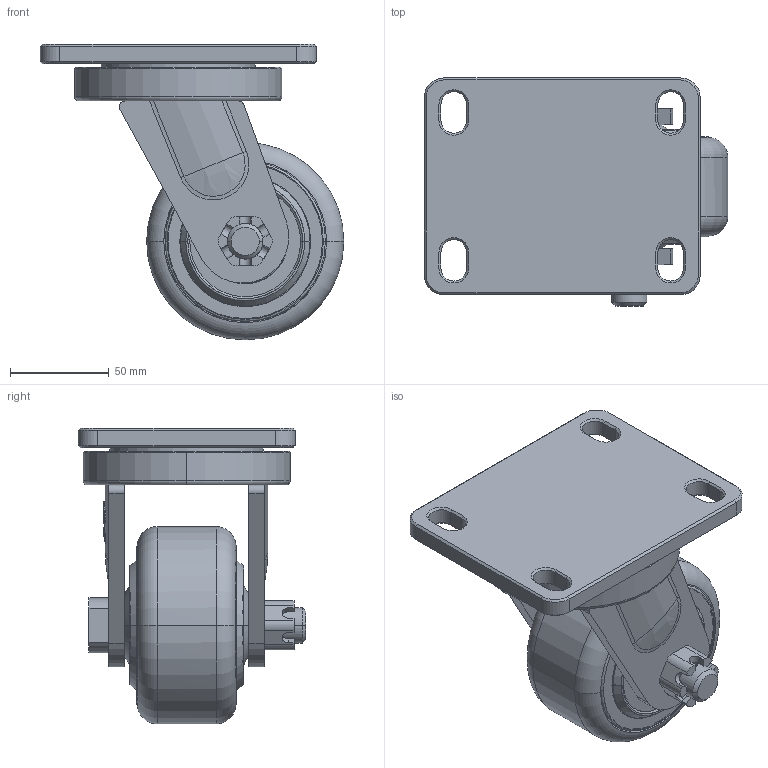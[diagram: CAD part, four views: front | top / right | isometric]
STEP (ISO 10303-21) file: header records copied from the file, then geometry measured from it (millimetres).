
FILE_DESCRIPTION(/* description */ (''),/* implementation_level */ '2;1');
FILE_NAME(/* name */ '35B26_4_F.stp',/* time_stamp */ '2022-08-29T07:45:22+08:00',/* author */ (''),/* organization */ (''),/* preprocessor_version */ 'ST-DEVELOPER v14',/* originating_system */ 'SIEMENS PLM Software NX 8.0',/* authorisation */ '');
FILE_SCHEMA (('AUTOMOTIVE_DESIGN { 1 0 10303 214 3 1 1 1 }'));
Length unit declared in the file: millimetre
Products named in the file (1): 35B26_4_F
Bounding box: 154 x 115.5 x 150 mm (x, y, z)
Volume: 670013.5 mm3; surface area: 132933.1 mm2
Topology: 1 solids, 1 shells, 471 faces, 1235 edges, 799 vertices
Faces by surface type: plane 243, cylinder 120, cone 52, torus 46, bspline 10
Full cylindrical faces by diameter (mm): 78 x1
Entity records: 17284 total; most frequent: CARTESIAN_POINT 5417, DIRECTION 2603, ORIENTED_EDGE 2458, EDGE_CURVE 1229, AXIS2_PLACEMENT_3D 1061, VERTEX_POINT 798, EDGE_LOOP 521, LINE 481
